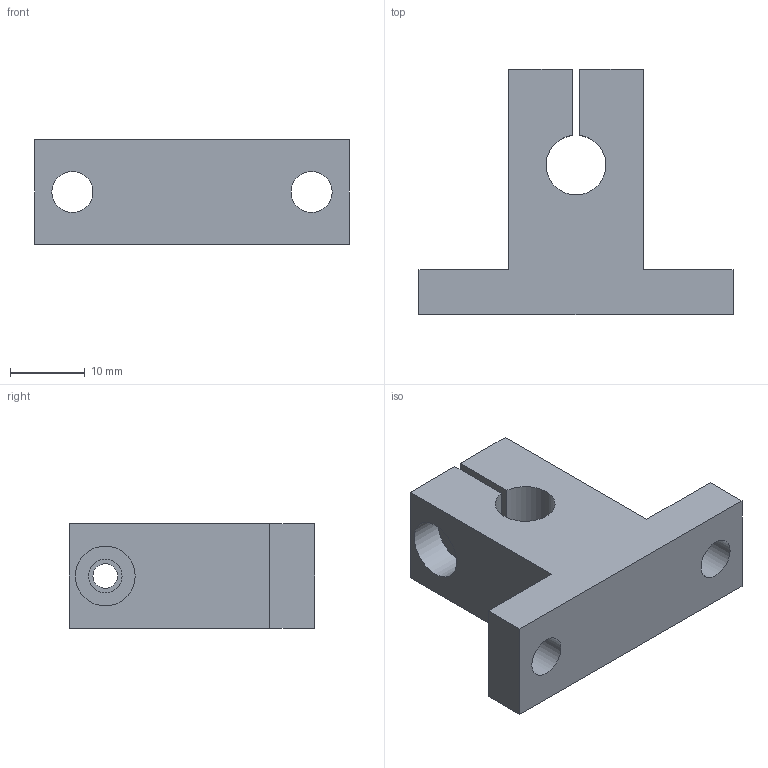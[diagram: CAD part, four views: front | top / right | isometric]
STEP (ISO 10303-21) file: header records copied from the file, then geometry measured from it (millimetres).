
FILE_DESCRIPTION(/* description */ ('Unknown'),/* implementation_level */ '2;1');
FILE_NAME(/* name */ 'SK8',/* time_stamp */ '2025-02-03T17:52:40+08:00',/* author */ ('Unknown'),/* organization */ ('Unknown'),/* preprocessor_version */ 'ST-DEVELOPER v18.102',/* originating_system */ 'Solid Edge',/* authorisation */ 'Unknown');
FILE_SCHEMA (('AUTOMOTIVE_DESIGN {1 0 10303 214 3 1 1}'));
Length unit declared in the file: millimetre
Products named in the file (1): SK8
Bounding box: 42 x 32.8 x 14 mm (x, y, z)
Volume: 8806.9 mm3; surface area: 4337.3 mm2
Topology: 1 solids, 1 shells, 20 faces, 53 edges, 36 vertices
Faces by surface type: plane 14, cylinder 6
Full cylindrical faces by diameter (mm): 3.3 x1, 4.5 x1, 5.5 x2, 8 x1
Entity records: 628 total; most frequent: CARTESIAN_POINT 101, DIRECTION 100, ORIENTED_EDGE 92, EDGE_CURVE 46, VERTEX_POINT 34, LINE 34, VECTOR 34, EDGE_LOOP 34
